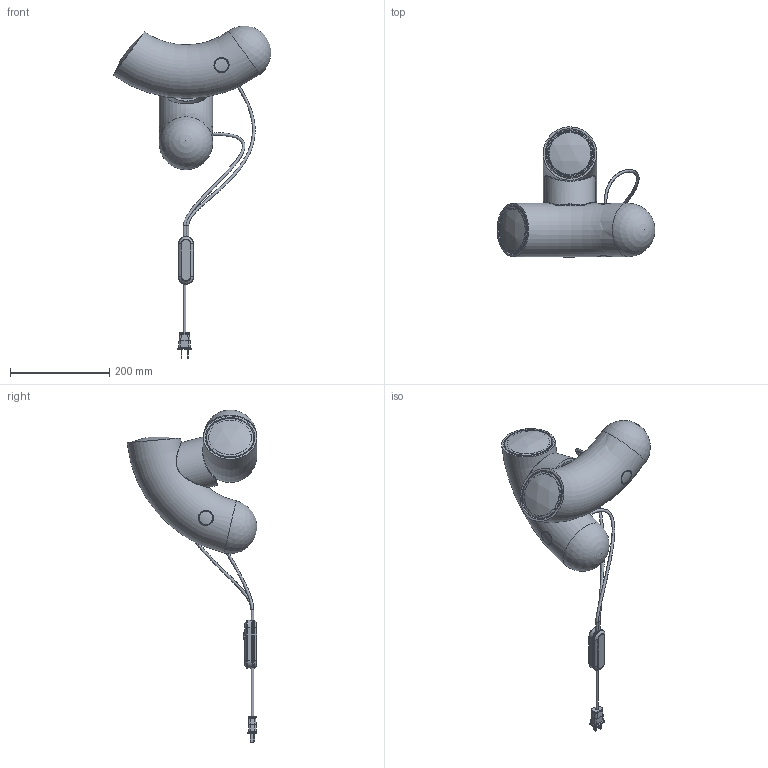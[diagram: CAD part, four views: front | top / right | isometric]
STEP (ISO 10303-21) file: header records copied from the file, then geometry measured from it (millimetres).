
FILE_DESCRIPTION(/* description */ (''),/* implementation_level */ '2;1');
FILE_NAME(/* name */ '/Users/guillaumeaube/Google Drive/00-Nouvelle Structure Drive/01-Produits/2020-Hyphen/02-Marketing/3D/HYTADOXX_SIMPLE.step',/* time_stamp */ '2022-03-17T17:20:11-04:00',/* author */ (''),/* organization */ (''),/* preprocessor_version */ 'ST-DEVELOPER v18.1',/* originating_system */ 'Autodesk Translation Framework v10.13.0.1454',/* authorisation */ '');
FILE_SCHEMA (('AUTOMOTIVE_DESIGN { 1 0 10303 214 3 1 1 }'));
Length unit declared in the file: millimetre
Products named in the file (21): HYTADOXX; A-0569STEL; A-0596; P-ROD0597ALUM; R-SHT0598POLY; R-SHT0598POLY_1; A-0569STEL_1; P-WEL0449STEL; LIGHT BULB PLATE; WELDNUT SINGLE; WELDNUT DOUBLE; SEE TABLE; P-CNC0565BRAS; P-CNC0565BRAS_1; P-CNC0566BRAS; P-CNC0566BRAS_1; E-MSC0595POLY-C03; W-18G0580-C03; W-18G0580-C03_1; W-18G0580-C03_2; E-MSC0102POLY-C03
Assembly tree (22 placements, depth 4):
  HYTADOXX
    A-0569STEL
      P-WEL0449STEL
        LIGHT BULB PLATE
        WELDNUT SINGLE
        WELDNUT DOUBLE
      SEE TABLE
    A-0596
      P-ROD0597ALUM
      R-SHT0598POLY
      R-SHT0598POLY_1
    A-0569STEL_1
      P-WEL0449STEL
        LIGHT BULB PLATE
        WELDNUT SINGLE
        WELDNUT DOUBLE
      SEE TABLE
    P-CNC0565BRAS
    P-CNC0565BRAS_1
    P-CNC0566BRAS
    P-CNC0566BRAS_1
    E-MSC0595POLY-C03
    W-18G0580-C03
    W-18G0580-C03_1
    W-18G0580-C03_2
    E-MSC0102POLY-C03
Bounding box: 318.16 x 261.76 x 669.1 mm (x, y, z)
Volume: 1102739.2 mm3; surface area: 599437.1 mm2
Topology: 30 solids, 32 shells, 615 faces, 1423 edges, 878 vertices
Faces by surface type: cylinder 178, plane 157, bspline 148, torus 78, sphere 34, cone 20
Full cylindrical faces by diameter (mm): 3.416 x8, 5.118 x6, 5.5 x5, 5.6 x4, 8 x2, 10 x2, 22.636 x8, 25.209 x10, 25.4 x2, 28.575 x4, 30.48 x4, 90.119 x1, 95.352 x2, 101.6 x1
Entity records: 28703 total; most frequent: CARTESIAN_POINT 17447, ORIENTED_EDGE 2297, DIRECTION 2090, EDGE_CURVE 1149, AXIS2_PLACEMENT_3D 858, VERTEX_POINT 703, EDGE_LOOP 545, FACE_OUTER_BOUND 504
